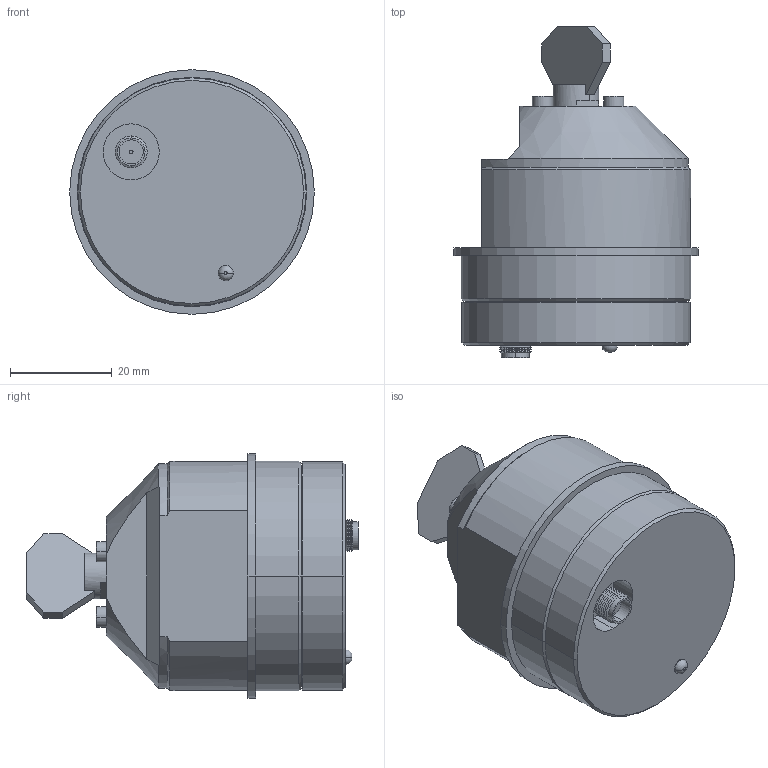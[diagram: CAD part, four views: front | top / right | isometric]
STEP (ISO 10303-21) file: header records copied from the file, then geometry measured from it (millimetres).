
FILE_DESCRIPTION (( 'STEP AP214' ), '1' );
FILE_NAME ('RTAX_A10.STEP', '2019-06-06T08:04:20', ( '' ), ( '' ), 'SwSTEP 2.0', 'SolidWorks 2011', '' );
FILE_SCHEMA (( 'AUTOMOTIVE_DESIGN' ));
Length unit declared in the file: millimetre
Products named in the file (5): A10_MirrorX; socket head cap screw_iso_ISO 4762 M2 x 5 --- 5N; Scanner_Draw06_4; Scanner_Solid; RTAX_A10
Assembly tree (5 placements, depth 2):
  RTAX_A10
    A10_MirrorX
    socket head cap screw_iso_ISO 4762 M2 x 5 --- 5N  x2
    Scanner_Draw06_4
    Scanner_Solid
Bounding box: 48 x 65.15 x 48 mm (x, y, z)
Volume: 65687.2 mm3; surface area: 11133.8 mm2
Topology: 5 solids, 5 shells, 197 faces, 440 edges, 266 vertices
Faces by surface type: plane 79, cylinder 52, cone 50, torus 16
Entity records: 5970 total; most frequent: DIRECTION 917, CARTESIAN_POINT 841, ORIENTED_EDGE 760, EDGE_CURVE 380, AXIS2_PLACEMENT_3D 369, VERTEX_POINT 233, CIRCLE 191, EDGE_LOOP 189
